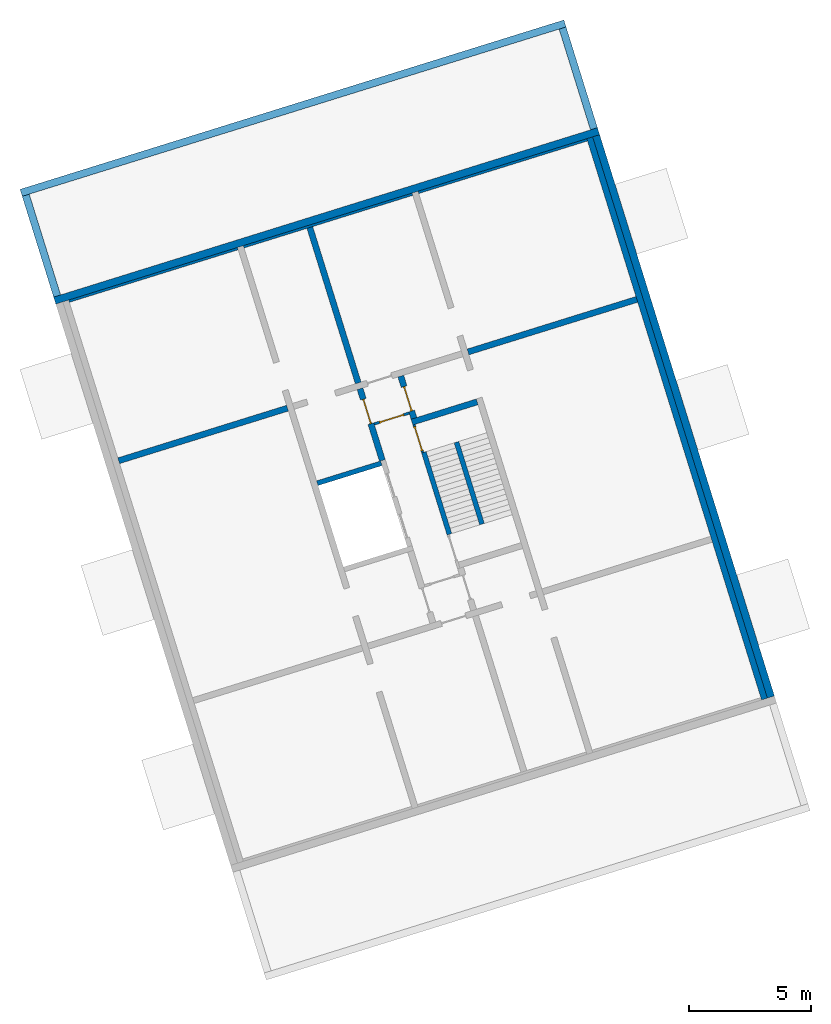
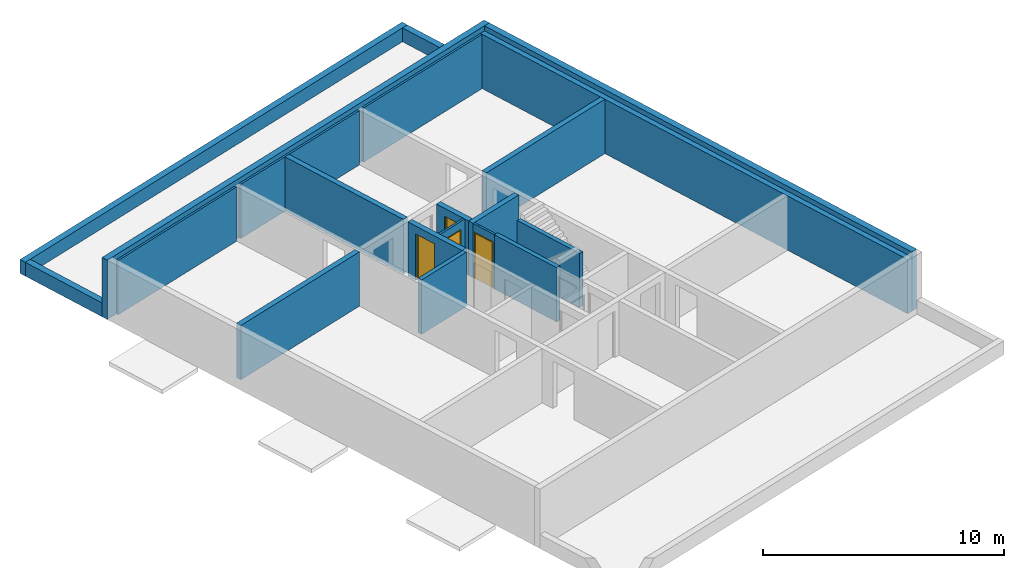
# One storey, part 2 of 4: 20 walls, 4 doors, 4 openings.
"""IFC4 building model written with IfcOpenShell, lengths in metres."""

from ifc_helpers import new_model, entity, si_unit, converted_unit, direction, frame, origin, place, context, subcontext, project, spatial, indexed_curve, outline, extrude, polygons, source, transform, mapped, material, constituent, constituent_set, type_object, type_shapes, element, fill, save


model = new_model("IFC4")

# Units and contexts
model_context = context("Model", 3, precision=1e-05, world=origin(), true_north=direction((6.12323399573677e-17, 1.0)))
body_context = subcontext(model_context, "Body", "Model", "MODEL_VIEW")
ifc_project = project(units=[si_unit("LENGTHUNIT", "METRE"), si_unit("AREAUNIT", "SQUARE_METRE"), si_unit("VOLUMEUNIT", "CUBIC_METRE"), converted_unit("PLANEANGLEUNIT", "DEGREE", entity("IfcPlaneAngleMeasure", 0.0174532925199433), si_unit("PLANEANGLEUNIT", "RADIAN"), dimensions=[0, 0, 0, 0, 0, 0, 0])], contexts=[model_context])

# Site, building, storey
site_placement = place(None, frame((13.1347999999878, 11.9886000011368, 0.0), z_axis=(0.0, 0.0, 1.0), x_axis=(0.954770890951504, 0.297342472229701, 0.0)))
site = spatial("IfcSite", under=ifc_project, at=site_placement, Name="Schiehaven", CompositionType="ELEMENT")
building_placement = place(site_placement, origin())
building = spatial("IfcBuilding", under=site, at=building_placement, Name="VORM huis", CompositionType="ELEMENT")
storey_placement = place(building_placement, frame((0.0, 0.0, 6.9)))
storey = spatial("IfcBuildingStorey", under=building, at=storey_placement, Name="02 tweede verdieping", CompositionType="ELEMENT", Elevation=6.9)

# Walls
ifc_material_1 = material(Name="beton_gewapend_ihw", Category="Miscellaneous")
wall_type_1 = type_object("IfcWallType", Name="Basic Wall:28_WA_skelet_wand 250mm_gen", PredefinedType="STANDARD")
wall_1_placement = place(storey_placement, frame((27.5, 5.0, 0.0), z_axis=(0.0, 0.0, 1.0), x_axis=(0.0, 1.0, 0.0)))
element("IfcWall", 1, at=wall_1_placement, inside=storey, type_object=wall_type_1, material=ifc_material_1, Name="Constructieve wand", ObjectType="Wand", PredefinedType="NOTDEFINED", context=body_context, shape_type="SweptSolid", body=[
    extrude(outline(indexed_curve([(24.1, 0.125000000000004), (4.21737840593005e-16, 0.125000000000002), (-4.21737840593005e-16, -0.125000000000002), (24.1, -0.125), (24.1, 0.125000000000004)], self_intersect=False)), origin(), (0.0, 0.0, 1.0), 2.75),
])
ifc_material_2 = material(Name="ntb_ntb_ntb", Category="Miscellaneous")
wall_type_2 = type_object("IfcWallType", Name="Basic Wall:21_WA_gevel_binnenspouwwand 100mm_gen", PredefinedType="STANDARD")
wall_2_placement = place(storey_placement, frame((5.12500000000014, 29.0500000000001, 0.0)))
element("IfcWall", 2, at=wall_2_placement, inside=storey, type_object=wall_type_2, material=ifc_material_2, Name="Binnenspouwblad", ObjectType="Wand", PredefinedType="NOTDEFINED", context=body_context, shape_type="SweptSolid", body=[
    extrude(outline(indexed_curve([(7.24999999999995, 0.0500000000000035), (-1.62265042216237e-16, 0.0500000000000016), (1.62265042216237e-16, -0.0500000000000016), (7.24999999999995, -0.0499999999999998), (7.24999999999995, 0.0500000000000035)], self_intersect=False)), origin(), (0.0, 0.0, 1.0), 2.75),
])
wall_3_placement = place(storey_placement, frame((19.8750000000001, 29.05, 0.0), z_axis=(0.0, 0.0, 1.0), x_axis=(-1.0, 0.0, 0.0)))
element("IfcWall", 3, at=wall_3_placement, inside=storey, type_object=wall_type_2, material=ifc_material_2, Name="Binnenspouwblad", ObjectType="Wand", PredefinedType="NOTDEFINED", context=body_context, shape_type="SweptSolid", body=[
    extrude(outline(indexed_curve([(7.24999999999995, 0.0500000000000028), (-8.07179175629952e-18, 0.0500000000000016), (8.07179175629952e-18, -0.0500000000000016), (7.24999999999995, -0.0500000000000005), (7.24999999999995, 0.0500000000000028)], self_intersect=False)), origin(), (0.0, 0.0, 1.0), 2.75),
])
wall_4_placement = place(storey_placement, frame((20.1250000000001, 29.05, 0.0)))
element("IfcWall", 4, at=wall_4_placement, inside=storey, type_object=wall_type_2, material=ifc_material_2, Name="Binnenspouwblad", ObjectType="Wand", PredefinedType="NOTDEFINED", context=body_context, shape_type="SweptSolid", body=[
    extrude(outline(indexed_curve([(7.24999999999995, 0.0500000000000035), (-1.62265042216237e-16, 0.0500000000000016), (1.62265042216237e-16, -0.0500000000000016), (7.24999999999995, -0.0499999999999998), (7.24999999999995, 0.0500000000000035)], self_intersect=False)), origin(), (0.0, 0.0, 1.0), 2.75),
])
wall_type_3 = type_object("IfcWallType", Name="Basic Wall: 300mm_gen", PredefinedType="STANDARD")
wall_5_placement = place(storey_placement, frame((27.7750000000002, 29.1, 0.0), z_axis=(0.0, 0.0, 1.0), x_axis=(0.0, -1.0, 0.0)))
element("IfcWall", 5, at=wall_5_placement, inside=storey, type_object=wall_type_3, material=ifc_material_2, Name="Gevelwand", ObjectType="Wand", PredefinedType="NOTDEFINED", context=body_context, shape_type="SweptSolid", body=[
    extrude(outline(indexed_curve([(24.1, 0.149999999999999), (-3.69735301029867e-16, 0.150000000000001), (3.69735301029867e-16, -0.150000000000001), (24.1, -0.150000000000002), (24.1, 0.149999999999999)], self_intersect=False)), origin(), (0.0, 0.0, 1.0), 3.0),
])
wall_6_placement = place(storey_placement, frame((4.57500000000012, 29.25, 0.0)))
element("IfcWall", 6, at=wall_6_placement, inside=storey, type_object=wall_type_3, material=ifc_material_2, Name="Gevelwand", ObjectType="Wand", PredefinedType="NOTDEFINED", context=body_context, shape_type="SweptSolid", body=[
    extrude(outline(indexed_curve([(23.35, 0.15), (1.58384323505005e-16, 0.150000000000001), (-1.58384323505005e-16, -0.150000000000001), (23.35, -0.150000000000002), (23.35, 0.15)], self_intersect=False)), origin(), (0.0, 0.0, 1.0), 3.0),
])
wall_7_placement = place(storey_placement, frame((4.72500000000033, 29.4000000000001, 0.0), z_axis=(0.0, 0.0, 1.0), x_axis=(0.0, 1.0, 0.0)))
element("IfcWall", 7, at=wall_7_placement, inside=storey, type_object=wall_type_3, material=ifc_material_2, Name="Gevelwand", ObjectType="Wand", PredefinedType="NOTDEFINED", context=body_context, shape_type="SweptSolid", body=[
    extrude(outline(indexed_curve([(4.32500000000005, 0.15), (-6.36162848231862e-16, 0.15), (6.36162848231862e-16, -0.15), (4.32500000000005, -0.15), (4.32500000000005, 0.15)], self_intersect=False)), origin(), (0.0, 0.0, 1.0), 0.700000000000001),
])
wall_8_placement = place(storey_placement, frame((4.57500000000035, 33.8750000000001, 0.0)))
element("IfcWall", 8, at=wall_8_placement, inside=storey, type_object=wall_type_3, material=ifc_material_2, Name="Gevelwand", ObjectType="Wand", PredefinedType="NOTDEFINED", context=body_context, shape_type="SweptSolid", body=[
    extrude(outline(indexed_curve([(23.3500000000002, 0.150000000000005), (1.5399148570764e-16, 0.150000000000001), (-1.5399148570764e-16, -0.150000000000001), (23.3500000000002, -0.149999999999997), (23.3500000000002, 0.150000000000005)], self_intersect=False)), origin(), (0.0, 0.0, 1.0), 0.700000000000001),
])
wall_9_placement = place(storey_placement, frame((27.7750000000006, 33.7250000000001, 0.0), z_axis=(0.0, 0.0, 1.0), x_axis=(0.0, -1.0, 0.0)))
element("IfcWall", 9, at=wall_9_placement, inside=storey, type_object=wall_type_3, material=ifc_material_2, Name="Gevelwand", ObjectType="Wand", PredefinedType="NOTDEFINED", context=body_context, shape_type="SweptSolid", body=[
    extrude(outline(indexed_curve([(4.32500000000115, 0.149999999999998), (1.55262303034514e-15, 0.150000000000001), (-1.55262303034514e-15, -0.150000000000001), (4.32500000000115, -0.150000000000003), (4.32500000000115, 0.149999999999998)], self_intersect=False)), origin(), (0.0, 0.0, 1.0), 0.700000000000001),
])
ifc_material_3 = material(Name="beton_gewapend_prefab-element", Category="Miscellaneous")
wall_type_4 = type_object("IfcWallType", Name="Basic Wall:28_WA_skelet_wand 200mm_gen", PredefinedType="STANDARD")
wall_10_placement = place(storey_placement, frame((15.3750000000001, 18.9, 0.0), z_axis=(0.0, 0.0, 1.0), x_axis=(-1.0, 0.0, 0.0)))
element("IfcWall", 10, at=wall_10_placement, inside=storey, type_object=wall_type_4, material=ifc_material_3, Name="Constructieve wand", ObjectType="Wand", PredefinedType="NOTDEFINED", context=body_context, shape_type="SweptSolid", body=[
    extrude(outline(indexed_curve([(2.75, 0.100000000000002), (-2.05391259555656e-16, 0.100000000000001), (2.05391259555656e-16, -0.100000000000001), (2.75, -0.0999999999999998), (2.75, 0.100000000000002)], self_intersect=False)), origin(), (0.0, 0.0, 1.0), 2.75),
])
wall_11_placement = place(storey_placement, frame((17.1750000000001, 15.29, 0.0), z_axis=(0.0, 0.0, 1.0), x_axis=(0.0, 1.0, 0.0)))
element("IfcWall", 11, at=wall_11_placement, inside=storey, type_object=wall_type_4, material=ifc_material_3, Name="Constructieve wand", ObjectType="Wand", PredefinedType="NOTDEFINED", context=body_context, shape_type="SweptSolid", body=[
    extrude(outline(indexed_curve([(3.52, 0.0999999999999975), (-5.13023966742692e-16, 0.0999999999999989), (5.13023966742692e-16, -0.0999999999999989), (3.52, -0.1), (3.52, 0.0999999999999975)], self_intersect=False)), origin(), (0.0, 0.0, 1.0), 2.75),
])
wall_12_placement = place(storey_placement, frame((18.5750000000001, 15.29, 0.0), z_axis=(0.0, 0.0, 1.0), x_axis=(0.0, 1.0, 0.0)))
element("IfcWall", 12, at=wall_12_placement, inside=storey, type_object=wall_type_4, material=ifc_material_3, Name="Constructieve wand", ObjectType="Wand", PredefinedType="NOTDEFINED", context=body_context, shape_type="SweptSolid", body=[
    extrude(outline(indexed_curve([(3.52, 0.0999999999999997), (-6.36077049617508e-16, 0.0999999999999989), (6.36077049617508e-16, -0.0999999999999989), (3.52, -0.0999999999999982), (3.52, 0.0999999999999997)], self_intersect=False)), origin(), (0.0, 0.0, 1.0), 2.75),
])
wall_type_5 = type_object("IfcWallType", Name="Basic Wall:22_WA_afbouw_binnenwand 250mm_gen", PredefinedType="STANDARD")
wall_13_placement = place(storey_placement, frame((19.8750000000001, 20.135, 0.0), z_axis=(0.0, 0.0, 1.0), x_axis=(-1.0, 0.0, 0.0)))
element("IfcWall", 13, at=wall_13_placement, inside=storey, type_object=wall_type_5, material=ifc_material_2, Name="Binnenwand", ObjectType="Wand", PredefinedType="NOTDEFINED", context=body_context, shape_type="SweptSolid", body=[
    extrude(outline(indexed_curve([(2.8, 0.125000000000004), (-4.9649652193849e-16, 0.125000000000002), (4.9649652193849e-16, -0.125000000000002), (2.80000000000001, -0.124999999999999), (2.8, 0.125000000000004)], self_intersect=False)), origin(), (0.0, 0.0, 1.0), 2.75),
])

# Wall, opening, door
wall_14_placement = place(storey_placement, frame((17.2000000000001, 20.26, 0.0), z_axis=(0.0, 0.0, 1.0), x_axis=(0.0, 1.0, 0.0)))
wall_14 = element("IfcWall", 14, at=wall_14_placement, inside=storey, type_object=wall_type_5, material=ifc_material_2, Name="Binnenwand", ObjectType="Wand", PredefinedType="NOTDEFINED", context=body_context, shape_type="Tessellation", body=[
    polygons([(0.0, -0.124999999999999, 1.08286712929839e-15), (0.315000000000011, -0.124999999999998, 1.08286712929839e-15), (0.315000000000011, -0.124999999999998, 2.34999999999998), (1.36500000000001, -0.125, 2.34999999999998), (1.36500000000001, -0.125, 1.08286712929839e-15), (1.815, -0.125000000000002, 1.08286712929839e-15), (1.815, -0.125000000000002, 2.75), (0.0, -0.124999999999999, 2.75), (0.315000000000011, 0.125, 2.34999999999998), (0.315000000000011, 0.125, 1.08286712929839e-15), (0.215000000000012, 0.124999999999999, 0.0), (0.0, 0.125, 1.08286712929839e-15), (0.0, 0.125, 2.75), (0.215000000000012, 0.124999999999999, 2.75), (0.315000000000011, 0.125, 2.75), (1.815, 0.125, 2.75), (1.815, 0.125, 1.08286712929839e-15), (1.36500000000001, 0.124999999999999, 1.08286712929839e-15), (1.36500000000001, 0.124999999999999, 2.34999999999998)], [[[1, 2, 3, 4, 5, 6, 7, 8]], [[9, 10, 11, 12, 13, 14, 15, 16, 17, 18, 19]], [[12, 11, 10, 2, 1]], [[7, 6, 17, 16]], [[8, 7, 16, 15, 14, 13]], [[5, 4, 19, 18]], [[3, 2, 10, 9]], [[4, 3, 9, 19]], [[1, 8, 13, 12]], [[18, 17, 6, 5]]], closed=True),
])
opening_1_placement = place(wall_14_placement, frame((0.315000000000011, -0.125000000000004, 0.0)))
opening_1 = element("IfcOpeningElement", 15, at=opening_1_placement, cuts=wall_14, Name="Woningtoegangsdeur", PredefinedType="OPENING", context=body_context, shape_type="SweptSolid", body=[
    extrude(outline(indexed_curve([(2.34999999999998, 1.05), (0.0, 1.05), (0.0, 0.0), (2.34999999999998, 0.0), (2.34999999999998, 1.05)], self_intersect=False)), frame((0.0, 0.0, 0.0), z_axis=(0.0, 1.0, 0.0), x_axis=(0.0, 0.0, 1.0)), (0.0, 0.0, 1.0), 0.25),
])
ifc_material_4 = material(Name="PD_a_binnenwandopeningen", Category="Miscellaneous")
ifc_constituent_1 = constituent(ifc_material_4, Name="PD_a_binnenwandopeningen", Category="Miscellaneous")
ifc_material_5 = material(Name="metaal_aluminium_ntb", Category="Miscellaneous")
ifc_constituent_2 = constituent(ifc_material_5, Name="metaal_aluminium_ntb", Category="Miscellaneous")
ifc_constituent_set_1 = constituent_set(constituents=[ifc_constituent_1, ifc_constituent_2])
ifc_constituent_3 = constituent(ifc_material_4, Name="PD_a_binnenwandopeningen", Category="Miscellaneous")
ifc_constituent_4 = constituent(ifc_material_5, Name="Panel", Category="Miscellaneous")
ifc_constituent_set_2 = constituent_set(constituents=[ifc_constituent_3, ifc_constituent_4])
door_type_1 = type_object("IfcDoorType", Name="32_DO_binnendeur enkel:woningtoegangsdeur", OperationType="REVOLVING", PredefinedType="DOOR", material=ifc_constituent_set_2)
shared_shape_1 = source(origin(), body_context, "Body", "SweptSolid", [
    extrude(outline(indexed_curve([(-1.16249999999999, -0.525000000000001), (1.18749999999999, -0.525), (1.18749999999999, 0.525000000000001), (-1.16249999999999, 0.525000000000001), (-1.16249999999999, 0.475), (1.13749999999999, 0.475), (1.13749999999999, -0.475), (-1.16249999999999, -0.475), (-1.16249999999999, -0.525000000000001)], self_intersect=False)), frame((0.525000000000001, 0.0749999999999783, 1.16249999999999), z_axis=(0.0, 1.0, 0.0), x_axis=(0.0, 0.0, 1.0)), (0.0, 0.0, 1.0), 0.1),
    extrude(outline(indexed_curve([(-0.025, -0.475), (0.025, -0.475), (0.025, 0.475), (-0.025, 0.475), (-0.025, -0.475)], self_intersect=False)), frame((0.525000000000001, 0.12499999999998, 0.0), z_axis=(0.0, 0.0, 1.0), x_axis=(0.0, 1.0, 0.0)), (0.0, 0.0, 1.0), 2.29999999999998),
])
type_shapes(door_type_1, [shared_shape_1])
door_1_placement = place(opening_1_placement, origin())
door_1 = element("IfcDoor", 16, at=door_1_placement, inside=storey, type_object=door_type_1, material=ifc_constituent_set_1, Name="Woningtoegangsdeur", ObjectType="Deur", OperationType="REVOLVING", OverallHeight=2.34999999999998, OverallWidth=1.05, PredefinedType="DOOR", context=body_context, shape_type="MappedRepresentation", body=[
    mapped(shared_shape_1, transform((0.0, 0.0, 0.0), scale=1.0)),
])
fill(opening_1, door_1)

wall_15_placement = place(storey_placement, frame((15.4500000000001, 19.0, 0.0), z_axis=(0.0, 0.0, 1.0), x_axis=(0.0, 1.0, 0.0)))
wall_15 = element("IfcWall", 17, at=wall_15_placement, inside=storey, type_object=wall_type_5, material=ifc_material_2, Name="Binnenwand", ObjectType="Wand", PredefinedType="NOTDEFINED", context=body_context, shape_type="Tessellation", body=[
    polygons([(2.62500000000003, -0.124999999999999, 2.34999999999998), (2.62500000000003, -0.124999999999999, 1.08286712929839e-15), (3.075, -0.124999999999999, 1.08286712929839e-15), (3.075, -0.124999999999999, 2.75), (1.575, -0.124999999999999, 2.75), (1.475, -0.124999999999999, 2.75), (2.16573425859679e-15, -0.124999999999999, 2.75), (2.16573425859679e-15, -0.124999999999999, 1.08286712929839e-15), (1.475, -0.124999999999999, 0.0), (1.57500000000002, -0.124999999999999, 1.08286712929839e-15), (1.57500000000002, -0.124999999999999, 2.34999999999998), (3.075, 0.125000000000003, 1.08286712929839e-15), (2.62500000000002, 0.125, 1.08286712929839e-15), (2.62500000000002, 0.125, 2.34999999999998), (1.57500000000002, 0.124999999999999, 2.34999999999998), (1.57500000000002, 0.124999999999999, 1.08286712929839e-15), (0.0, 0.125000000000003, 1.08286712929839e-15), (0.0, 0.125000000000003, 2.75), (3.075, 0.125000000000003, 2.75)], [[[1, 2, 3, 4, 5, 6, 7, 8, 9, 10, 11]], [[12, 13, 14, 15, 16, 17, 18, 19]], [[10, 9, 8, 17, 16]], [[4, 3, 12, 19]], [[7, 6, 5, 4, 19, 18]], [[8, 7, 18, 17]], [[16, 15, 11, 10]], [[14, 13, 2, 1]], [[15, 14, 1, 11]], [[3, 2, 13, 12]]], closed=True),
])
opening_2_placement = place(wall_15_placement, frame((2.62500000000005, 0.124999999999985, 0.0)))
opening_2 = element("IfcOpeningElement", 18, at=opening_2_placement, cuts=wall_15, Name="Woningtoegangsdeur", PredefinedType="OPENING", context=body_context, shape_type="SweptSolid", body=[
    extrude(outline(indexed_curve([(2.34999999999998, 1.05), (0.0, 1.05), (0.0, 0.0), (2.34999999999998, 0.0), (2.34999999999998, 1.05)], self_intersect=False)), frame((0.0, 0.0, 0.0), z_axis=(0.0, -1.0, 0.0), x_axis=(0.0, 0.0, 1.0)), (0.0, 0.0, 1.0), 0.25),
])
ifc_constituent_5 = constituent(ifc_material_4, Name="PD_a_binnenwandopeningen", Category="Miscellaneous")
ifc_constituent_6 = constituent(ifc_material_5, Name="metaal_aluminium_ntb", Category="Miscellaneous")
ifc_constituent_set_3 = constituent_set(constituents=[ifc_constituent_5, ifc_constituent_6])
door_2_placement = place(opening_2_placement, frame((0.0, 0.0, 0.0), z_axis=(0.0, 0.0, 1.0), x_axis=(-1.0, 0.0, 0.0)))
door_2 = element("IfcDoor", 19, at=door_2_placement, inside=storey, type_object=door_type_1, material=ifc_constituent_set_3, Name="Woningtoegangsdeur", ObjectType="Deur", OperationType="REVOLVING", OverallHeight=2.34999999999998, OverallWidth=1.05, PredefinedType="DOOR", context=body_context, shape_type="MappedRepresentation", body=[
    mapped(shared_shape_1, transform((0.0, 0.0, 0.0), scale=1.0)),
])
fill(opening_2, door_2)

# Walls
wall_16_placement = place(storey_placement, frame((12.3750000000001, 22.2, 0.0), z_axis=(0.0, 0.0, 1.0), x_axis=(-1.0, 0.0, 0.0)))
element("IfcWall", 20, at=wall_16_placement, inside=storey, type_object=wall_type_5, material=ifc_material_2, Name="Binnenwand", ObjectType="Wand", PredefinedType="NOTDEFINED", context=body_context, shape_type="SweptSolid", body=[
    extrude(outline(indexed_curve([(7.24999999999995, 0.125000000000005), (-4.9649652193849e-16, 0.125000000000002), (4.9649652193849e-16, -0.125000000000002), (7.24999999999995, -0.124999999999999), (7.24999999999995, 0.125000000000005)], self_intersect=False)), origin(), (0.0, 0.0, 1.0), 2.75),
])
wall_17_placement = place(storey_placement, frame((15.4500000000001, 22.325, 0.0), z_axis=(0.0, 0.0, 1.0), x_axis=(0.0, 1.0, 0.0)))
element("IfcWall", 21, at=wall_17_placement, inside=storey, type_object=wall_type_5, material=ifc_material_2, Name="Binnenwand", ObjectType="Wand", PredefinedType="NOTDEFINED", context=body_context, shape_type="SweptSolid", body=[
    extrude(outline(indexed_curve([(6.67500000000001, 0.125), (-6.8946596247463e-16, 0.125), (6.8946596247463e-16, -0.125), (6.67500000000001, -0.125), (6.67500000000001, 0.125)], self_intersect=False)), origin(), (0.0, 0.0, 1.0), 2.75),
])
wall_18_placement = place(storey_placement, frame((20.125, 22.2, 0.0)))
element("IfcWall", 22, at=wall_18_placement, inside=storey, type_object=wall_type_5, material=ifc_material_2, Name="Binnenwand", ObjectType="Wand", PredefinedType="NOTDEFINED", context=body_context, shape_type="SweptSolid", body=[
    extrude(outline(indexed_curve([(7.24999999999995, 0.125000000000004), (-1.92055213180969e-16, 0.125000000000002), (1.92055213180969e-16, -0.125000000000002), (7.24999999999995, -0.124999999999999), (7.24999999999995, 0.125000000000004)], self_intersect=False)), origin(), (0.0, 0.0, 1.0), 2.75),
])

# Wall, opening, door
wall_type_6 = type_object("IfcWallType", Name="Basic Wall:22_WA_afbouw_binnenwand 100mm_gen", PredefinedType="STANDARD")
wall_19_placement = place(storey_placement, frame((17.1250000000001, 20.01, 0.0), z_axis=(0.0, 0.0, 1.0), x_axis=(0.0, -1.0, 0.0)))
wall_19 = element("IfcWall", 23, at=wall_19_placement, inside=storey, type_object=wall_type_6, material=ifc_material_2, Name="Binnenwand", ObjectType="Wand", PredefinedType="NOTDEFINED", context=body_context, shape_type="Tessellation", body=[
    polygons([(1.19999999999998, -0.050000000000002, 1.08286712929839e-15), (1.19999999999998, -0.050000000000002, 2.75), (0.0, -0.0500000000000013, 2.75), (0.0, -0.0500000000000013, 1.08286712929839e-15), (0.0749999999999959, -0.0500000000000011, 1.08286712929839e-15), (0.0749999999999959, -0.0500000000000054, 2.34999999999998), (1.125, -0.0500000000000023, 2.34999999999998), (1.125, -0.0500000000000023, 1.08286712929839e-15), (1.19999999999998, 0.0499999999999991, 2.75), (1.19999999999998, 0.0499999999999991, 1.08286712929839e-15), (1.125, 0.0499999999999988, 1.08286712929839e-15), (1.125, 0.0499999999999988, 2.34999999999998), (0.0749999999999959, 0.0499999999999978, 2.34999999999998), (0.0749999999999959, 0.0499999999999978, 1.08286712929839e-15), (0.0, 0.0500000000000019, 1.08286712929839e-15), (0.0, 0.0500000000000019, 2.75)], [[[1, 2, 3, 4, 5, 6, 7, 8]], [[9, 10, 11, 12, 13, 14, 15, 16]], [[4, 15, 14, 5]], [[2, 1, 10, 9]], [[3, 2, 9, 16]], [[4, 3, 16, 15]], [[13, 6, 5, 14]], [[6, 13, 12, 7]], [[7, 12, 11, 8]], [[10, 1, 8, 11]]], closed=True),
])
opening_3_placement = place(wall_19_placement, frame((0.0749999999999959, -0.0499999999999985, 0.0)))
opening_3 = element("IfcOpeningElement", 24, at=opening_3_placement, cuts=wall_19, Name="Vluchtdeur", PredefinedType="OPENING", context=body_context, shape_type="SweptSolid", body=[
    extrude(outline(indexed_curve([(2.34999999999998, 1.05), (0.0, 1.05), (0.0, -3.51974282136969e-30), (2.34999999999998, -3.51974282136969e-30), (2.34999999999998, 1.05)], self_intersect=False)), frame((0.0, 0.0, 0.0), z_axis=(0.0, 1.0, 0.0), x_axis=(0.0, 0.0, 1.0)), (0.0, 0.0, 1.0), 0.1),
])
ifc_constituent_7 = constituent(ifc_material_4, Name="PD_a_binnenwandopeningen", Category="Miscellaneous")
ifc_constituent_8 = constituent(ifc_material_5, Name="metaal_aluminium_ntb", Category="Miscellaneous")
ifc_constituent_set_4 = constituent_set(constituents=[ifc_constituent_7, ifc_constituent_8])
ifc_constituent_9 = constituent(ifc_material_4, Name="PD_a_binnenwandopeningen", Category="Miscellaneous")
ifc_constituent_10 = constituent(ifc_material_5, Name="Panel", Category="Miscellaneous")
ifc_constituent_set_5 = constituent_set(constituents=[ifc_constituent_9, ifc_constituent_10])
door_type_2 = type_object("IfcDoorType", Name="32_DO_binnendeur enkel:binnendeur zelfsluitend 30min", OperationType="NOTDEFINED", PredefinedType="DOOR", material=ifc_constituent_set_5)
shared_shape_2 = source(origin(), body_context, "Body", "SweptSolid", [
    extrude(outline(indexed_curve([(-1.16249999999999, -0.525000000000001), (1.18749999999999, -0.525), (1.18749999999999, 0.525), (-1.16249999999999, 0.525), (-1.16249999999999, 0.475), (1.13749999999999, 0.475), (1.13749999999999, -0.475), (-1.16249999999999, -0.475), (-1.16249999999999, -0.525000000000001)], self_intersect=False)), frame((0.525000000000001, 0.0, 1.16249999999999), z_axis=(0.0, 1.0, 0.0), x_axis=(0.0, 0.0, 1.0)), (0.0, 0.0, 1.0), 0.1),
    extrude(outline(indexed_curve([(-0.025, -0.475), (0.025, -0.475), (0.025, 0.475), (-0.025, 0.475), (-0.025, -0.475)], self_intersect=False)), frame((0.525000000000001, 0.0499999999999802, 0.0), z_axis=(0.0, 0.0, 1.0), x_axis=(0.0, 1.0, 0.0)), (0.0, 0.0, 1.0), 2.29999999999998),
])
type_shapes(door_type_2, [shared_shape_2])
door_3_placement = place(opening_3_placement, origin())
door_3 = element("IfcDoor", 25, at=door_3_placement, inside=storey, type_object=door_type_2, material=ifc_constituent_set_4, Name="Vluchtdeur", ObjectType="Deur", OperationType="NOTDEFINED", OverallHeight=2.34999999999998, OverallWidth=1.05, PredefinedType="DOOR", context=body_context, shape_type="MappedRepresentation", body=[
    mapped(shared_shape_2, transform((0.0, 0.0, 0.0), scale=1.0)),
])
fill(opening_3, door_3)

wall_20_placement = place(storey_placement, frame((17.0750000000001, 20.525, 0.0), z_axis=(0.0, 0.0, 1.0), x_axis=(-1.0, 0.0, 0.0)))
wall_20 = element("IfcWall", 26, at=wall_20_placement, inside=storey, type_object=wall_type_6, material=ifc_material_2, Name="Binnenwand", ObjectType="Wand", PredefinedType="NOTDEFINED", context=body_context, shape_type="Tessellation", body=[
    polygons([(1.50000000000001, -0.0499999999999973, 2.75), (7.85851977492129e-16, -0.0499999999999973, 2.75), (7.85851977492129e-16, -0.0499999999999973, 2.34999999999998), (7.85851977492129e-16, -0.0499999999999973, 1.08286712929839e-15), (0.224999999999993, -0.0499999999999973, 1.08286712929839e-15), (0.224999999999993, -0.0499999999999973, 2.34999999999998), (1.27499999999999, -0.0499999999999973, 2.34999999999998), (1.27499999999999, -0.0499999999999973, 1.08286712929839e-15), (1.50000000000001, -0.0499999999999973, 1.08286712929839e-15), (1.50000000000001, -0.0499999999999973, 2.34999999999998), (8.45188811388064e-16, 0.0500000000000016, 2.75), (1.50000000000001, 0.0500000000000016, 2.75), (1.50000000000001, 0.0500000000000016, 1.08286712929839e-15), (1.27499999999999, 0.0500000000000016, 1.08286712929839e-15), (1.27499999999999, 0.0500000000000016, 2.34999999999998), (0.224999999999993, 0.0500000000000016, 2.34999999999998), (0.224999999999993, 0.0500000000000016, 1.08286712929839e-15), (8.45188811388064e-16, 0.0500000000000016, 1.08286712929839e-15)], [[[1, 2, 3, 4, 5, 6, 7, 8, 9, 10]], [[11, 12, 13, 14, 15, 16, 17, 18]], [[4, 18, 17, 5]], [[2, 1, 12, 11]], [[16, 6, 5, 17]], [[6, 16, 15, 7]], [[7, 15, 14, 8]], [[1, 10, 9, 13, 12]], [[4, 3, 2, 11, 18]], [[13, 9, 8, 14]]], closed=True),
])
opening_4_placement = place(wall_20_placement, frame((0.224999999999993, -0.0500000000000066, 0.0)))
opening_4 = element("IfcOpeningElement", 27, at=opening_4_placement, cuts=wall_20, Name="Vluchtdeur", PredefinedType="OPENING", context=body_context, shape_type="SweptSolid", body=[
    extrude(outline(indexed_curve([(2.34999999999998, 1.05), (0.0, 1.05), (0.0, 1.35358391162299e-15), (2.34999999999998, 1.35358391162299e-15), (2.34999999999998, 1.05)], self_intersect=False)), frame((0.0, 0.0, 0.0), z_axis=(0.0, 1.0, 0.0), x_axis=(0.0, 0.0, 1.0)), (0.0, 0.0, 1.0), 0.1),
])
ifc_constituent_11 = constituent(ifc_material_4, Name="PD_a_binnenwandopeningen", Category="Miscellaneous")
ifc_constituent_12 = constituent(ifc_material_5, Name="metaal_aluminium_ntb", Category="Miscellaneous")
ifc_constituent_set_6 = constituent_set(constituents=[ifc_constituent_11, ifc_constituent_12])
door_4_placement = place(opening_4_placement, origin())
door_4 = element("IfcDoor", 28, at=door_4_placement, inside=storey, type_object=door_type_2, material=ifc_constituent_set_6, Name="Vluchtdeur", ObjectType="Deur", OperationType="NOTDEFINED", OverallHeight=2.34999999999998, OverallWidth=1.05, PredefinedType="DOOR", context=body_context, shape_type="MappedRepresentation", body=[
    mapped(shared_shape_2, transform((0.0, 0.0, 0.0), scale=1.0)),
])
fill(opening_4, door_4)

save(model, "model.ifc")
